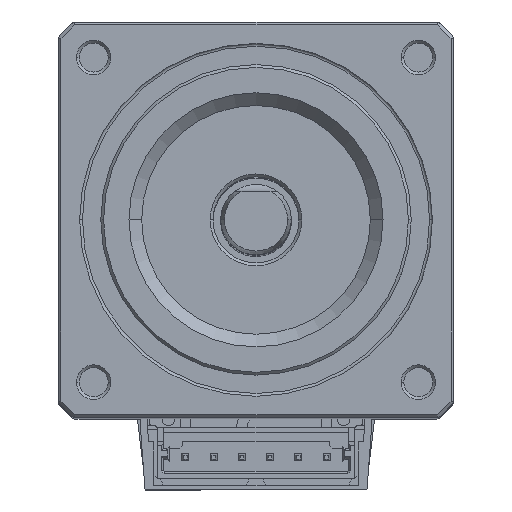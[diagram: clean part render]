
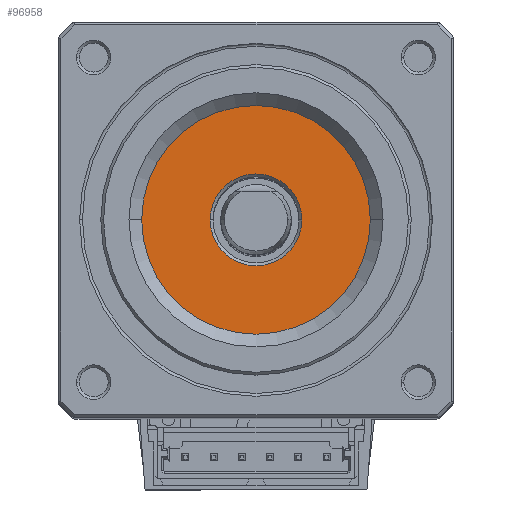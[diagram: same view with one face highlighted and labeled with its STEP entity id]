
A CAD part, top view. The second image highlights one B-rep face of the part: STEP entity #96958.
In plain terms, the highlighted planar face has unit normal (0, 0, 1).
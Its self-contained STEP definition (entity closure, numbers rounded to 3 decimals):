
#363 = CARTESIAN_POINT ( 'NONE',  ( -8.1, 0., 7.8 ) ) ;
#5335 = CIRCLE ( 'NONE', #48918, 3.25 ) ;
#7059 = ORIENTED_EDGE ( 'NONE', *, *, #96699, .T. ) ;
#9272 = ORIENTED_EDGE ( 'NONE', *, *, #94114, .T. ) ;
#11582 = FACE_BOUND ( 'NONE', #28751, .T. ) ;
#12851 = EDGE_CURVE ( 'NONE', #43006, #81580, #30585, .T. ) ;
#14894 = AXIS2_PLACEMENT_3D ( 'NONE', #82613, #82270, #25816 ) ;
#18325 = DIRECTION ( 'NONE',  ( 0., 0., 1. ) ) ;
#19704 = DIRECTION ( 'NONE',  ( 1., 0., 0. ) ) ;
#20552 = CARTESIAN_POINT ( 'NONE',  ( 3.25, 0., 7.8 ) ) ;
#24540 = DIRECTION ( 'NONE',  ( 1., 0., 0. ) ) ;
#24651 = CARTESIAN_POINT ( 'NONE',  ( 8.1, 0., 7.8 ) ) ;
#25816 = DIRECTION ( 'NONE',  ( 1., 0., 0. ) ) ;
#27680 = DIRECTION ( 'NONE',  ( 0., 0., -1. ) ) ;
#28751 = EDGE_LOOP ( 'NONE', ( #47148, #7059 ) ) ;
#30585 = CIRCLE ( 'NONE', #60436, 3.25 ) ;
#31470 = CARTESIAN_POINT ( 'NONE',  ( 0., 0., 7.8 ) ) ;
#35688 = DIRECTION ( 'NONE',  ( 1., 0., 0. ) ) ;
#43006 = VERTEX_POINT ( 'NONE', #20552 ) ;
#47148 = ORIENTED_EDGE ( 'NONE', *, *, #12851, .T. ) ;
#47874 = DIRECTION ( 'NONE',  ( 0., 0., -1. ) ) ;
#48918 = AXIS2_PLACEMENT_3D ( 'NONE', #31470, #47874, #24540 ) ;
#49971 = AXIS2_PLACEMENT_3D ( 'NONE', #66592, #65573, #91281 ) ;
#51527 = AXIS2_PLACEMENT_3D ( 'NONE', #98026, #18325, #19704 ) ;
#60436 = AXIS2_PLACEMENT_3D ( 'NONE', #91104, #27680, #35688 ) ;
#63805 = PLANE ( 'NONE',  #14894 ) ;
#65573 = DIRECTION ( 'NONE',  ( 0., 0., 1. ) ) ;
#66592 = CARTESIAN_POINT ( 'NONE',  ( 0., 0., 7.8 ) ) ;
#67892 = VERTEX_POINT ( 'NONE', #24651 ) ;
#69163 = VERTEX_POINT ( 'NONE', #363 ) ;
#78699 = CARTESIAN_POINT ( 'NONE',  ( -3.25, 0., 7.8 ) ) ;
#81580 = VERTEX_POINT ( 'NONE', #78699 ) ;
#82270 = DIRECTION ( 'NONE',  ( 0., 0., 1. ) ) ;
#82613 = CARTESIAN_POINT ( 'NONE',  ( 0., 0., 7.8 ) ) ;
#85706 = CIRCLE ( 'NONE', #49971, 8.1 ) ;
#88043 = ORIENTED_EDGE ( 'NONE', *, *, #102493, .T. ) ;
#88616 = CIRCLE ( 'NONE', #51527, 8.1 ) ;
#88863 = EDGE_LOOP ( 'NONE', ( #88043, #9272 ) ) ;
#91104 = CARTESIAN_POINT ( 'NONE',  ( 0., 0., 7.8 ) ) ;
#91281 = DIRECTION ( 'NONE',  ( 1., 0., 0. ) ) ;
#94114 = EDGE_CURVE ( 'NONE', #69163, #67892, #85706, .T. ) ;
#96699 = EDGE_CURVE ( 'NONE', #81580, #43006, #5335, .T. ) ;
#96958 = ADVANCED_FACE ( 'NONE', ( #102455, #11582 ), #63805, .T. ) ;
#98026 = CARTESIAN_POINT ( 'NONE',  ( 0., 0., 7.8 ) ) ;
#102455 = FACE_OUTER_BOUND ( 'NONE', #88863, .T. ) ;
#102493 = EDGE_CURVE ( 'NONE', #67892, #69163, #88616, .T. ) ;
